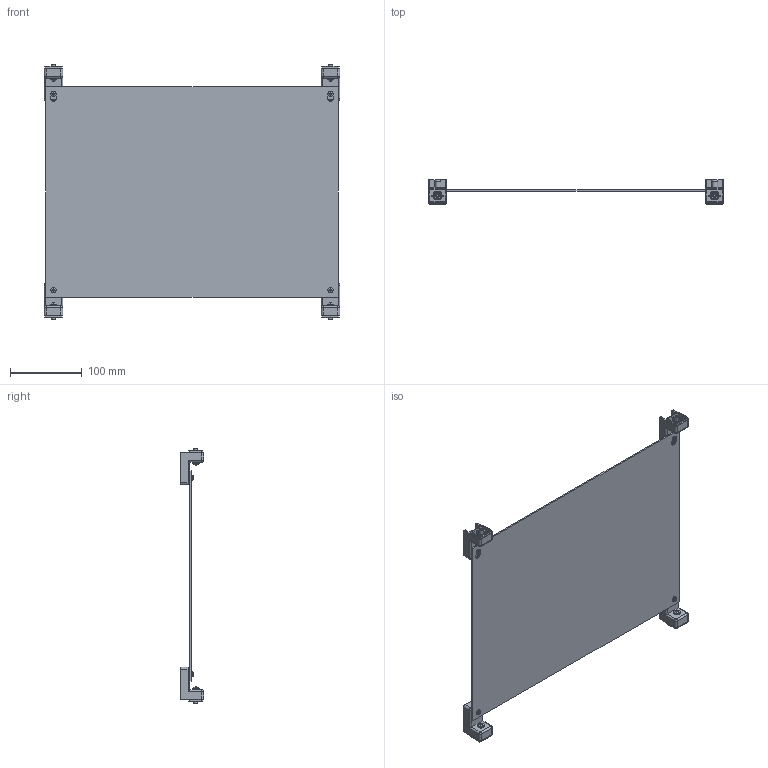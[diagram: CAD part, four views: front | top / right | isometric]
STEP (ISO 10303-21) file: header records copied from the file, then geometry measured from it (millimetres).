
FILE_DESCRIPTION(/* description */ (''),/* implementation_level */ '2;1');
FILE_NAME(/* name */ '4005020.stp',/* time_stamp */ '2019-03-01T17:07:43+01:00',/* author */ (''),/* organization */ (''),/* preprocessor_version */ 'ST-DEVELOPER v16.7',/* originating_system */ 'SIEMENS PLM Software NX 12.0',/* authorisation */ '');
FILE_SCHEMA (('AUTOMOTIVE_DESIGN { 1 0 10303 214 3 1 1 1 }'));
Length unit declared in the file: millimetre
Products named in the file (1): bsom23CC53FBq2bu
Bounding box: 412 x 33 x 356 mm (x, y, z)
Volume: 285756.2 mm3; surface area: 280983 mm2
Topology: 13 solids, 13 shells, 756 faces, 1814 edges, 1084 vertices
Faces by surface type: plane 314, cylinder 194, bspline 96, torus 72, sphere 48, cone 32
Full cylindrical faces by diameter (mm): 3.4 x4, 3.75 x4, 4 x4, 4.3 x2, 5 x4, 5.2 x4, 7.2 x4, 8.5 x4, 9.3 x4, 9.5 x4
Entity records: 23083 total; most frequent: CARTESIAN_POINT 6257, DIRECTION 3526, ORIENTED_EDGE 3376, EDGE_CURVE 1688, AXIS2_PLACEMENT_3D 1349, VERTEX_POINT 1060, EDGE_LOOP 874, LINE 828
